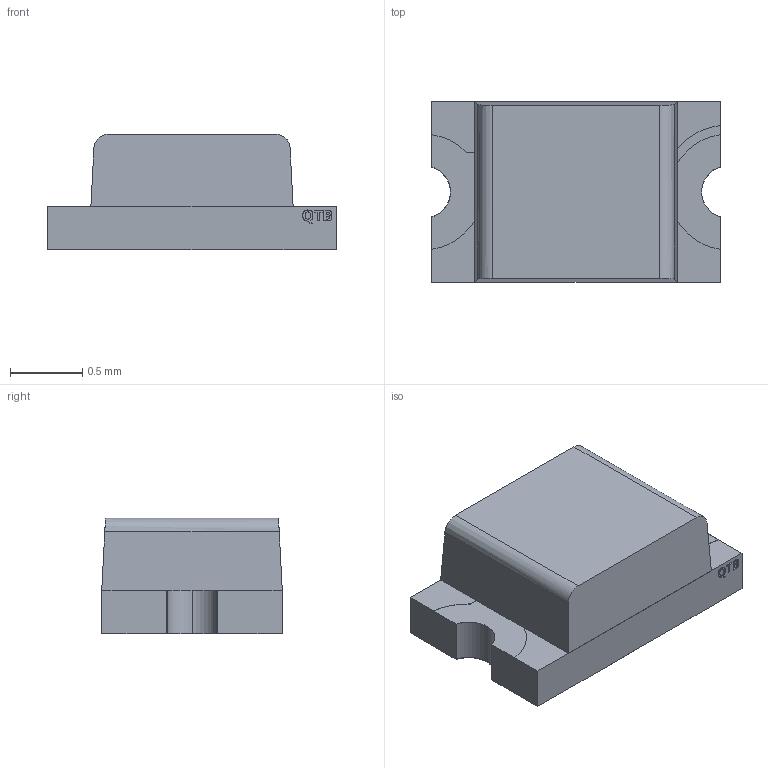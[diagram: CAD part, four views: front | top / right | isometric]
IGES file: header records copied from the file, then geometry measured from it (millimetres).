
Start section: Data from Parasolid IGES Translator 23.1.110, Copyright(c) 2006 Siemens PLM Software. All Rights Reserved.
Global section: file name: 5fab0c7d5ed59b0f42ef6305.iges; native system: By Siemens PLM Incorporated; preprocessor: XPlus GENERIC/IGES 23.1.110; author: Noname; organization: Noname; date: 20201110.215613; units: metre
Bounding box: 2 x 1.25 x 0.8 mm (x, y, z)
Surface area: 17.3 mm2 (no closed solid volume)
Topology: 0 solids, 0 shells, 156 faces, 854 edges, 854 vertices
Faces by surface type: extrusion 121, revolution 35
